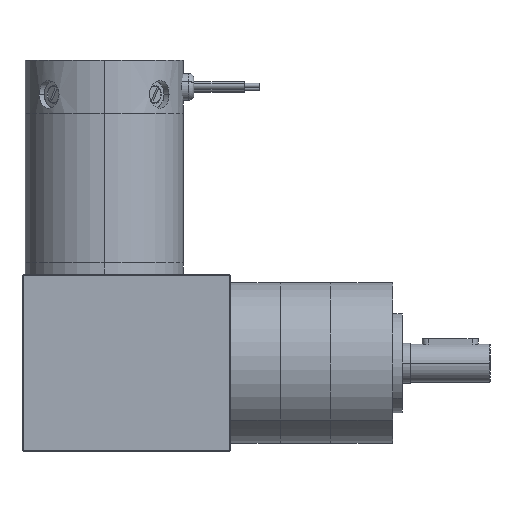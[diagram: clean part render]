
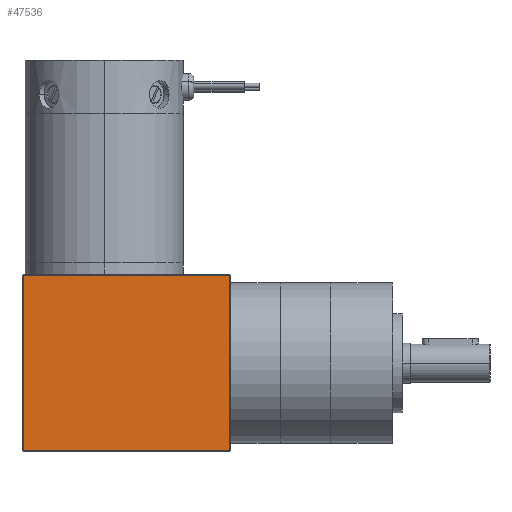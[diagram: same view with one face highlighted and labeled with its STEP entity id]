
A CAD part, top view. The second image highlights one B-rep face of the part: STEP entity #47536.
In plain terms, the highlighted planar face has unit normal (0, 0, 1).
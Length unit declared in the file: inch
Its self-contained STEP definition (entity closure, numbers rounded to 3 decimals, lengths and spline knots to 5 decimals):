
#364 = EDGE_CURVE ( 'NONE', #49258, #4784, #43712, .T. ) ;
#1305 = CARTESIAN_POINT ( 'NONE',  ( 11.74851, 3.5, 3.25 ) ) ;
#1315 = CARTESIAN_POINT ( 'NONE',  ( 7.66351, 3.48, 3.25 ) ) ;
#2335 = DIRECTION ( 'NONE',  ( 1., 0., 0. ) ) ;
#2449 = ORIENTED_EDGE ( 'NONE', *, *, #364, .T. ) ;
#4784 = VERTEX_POINT ( 'NONE', #1315 ) ;
#7285 = CARTESIAN_POINT ( 'NONE',  ( 7.66351, 0.02, 3.25 ) ) ;
#7419 = FACE_OUTER_BOUND ( 'NONE', #36818, .T. ) ;
#8696 = LINE ( 'NONE', #9036, #25394 ) ;
#9036 = CARTESIAN_POINT ( 'NONE',  ( 7.66351, 0., 3.25 ) ) ;
#10936 = CARTESIAN_POINT ( 'NONE',  ( 11.74851, 3.48, 3.25 ) ) ;
#11914 = VECTOR ( 'NONE', #51203, 39.37008 ) ;
#12594 = PLANE ( 'NONE',  #13926 ) ;
#13348 = DIRECTION ( 'NONE',  ( 0., -1., 0. ) ) ;
#13926 = AXIS2_PLACEMENT_3D ( 'NONE', #42131, #49501, #50221 ) ;
#14559 = VERTEX_POINT ( 'NONE', #7285 ) ;
#15094 = EDGE_CURVE ( 'NONE', #4784, #14559, #8696, .T. ) ;
#15472 = VERTEX_POINT ( 'NONE', #19236 ) ;
#19236 = CARTESIAN_POINT ( 'NONE',  ( 11.74851, 0.02, 3.25 ) ) ;
#20263 = LINE ( 'NONE', #1305, #11914 ) ;
#22165 = LINE ( 'NONE', #47769, #25302 ) ;
#24954 = VECTOR ( 'NONE', #31608, 39.37008 ) ;
#25302 = VECTOR ( 'NONE', #2335, 39.37008 ) ;
#25394 = VECTOR ( 'NONE', #13348, 39.37008 ) ;
#30203 = ORIENTED_EDGE ( 'NONE', *, *, #15094, .T. ) ;
#31608 = DIRECTION ( 'NONE',  ( -1., 0., 0. ) ) ;
#36818 = EDGE_LOOP ( 'NONE', ( #45401, #49900, #2449, #30203 ) ) ;
#40943 = EDGE_CURVE ( 'NONE', #15472, #49258, #20263, .T. ) ;
#42131 = CARTESIAN_POINT ( 'NONE',  ( 9.70601, 1.75, 3.25 ) ) ;
#43094 = EDGE_CURVE ( 'NONE', #14559, #15472, #22165, .T. ) ;
#43712 = LINE ( 'NONE', #48371, #24954 ) ;
#45401 = ORIENTED_EDGE ( 'NONE', *, *, #43094, .T. ) ;
#47536 = ADVANCED_FACE ( 'NONE', ( #7419 ), #12594, .T. ) ;
#47769 = CARTESIAN_POINT ( 'NONE',  ( 11.76851, 0.02, 3.25 ) ) ;
#48371 = CARTESIAN_POINT ( 'NONE',  ( 7.64351, 3.48, 3.25 ) ) ;
#49258 = VERTEX_POINT ( 'NONE', #10936 ) ;
#49501 = DIRECTION ( 'NONE',  ( 0., 0., 1. ) ) ;
#49900 = ORIENTED_EDGE ( 'NONE', *, *, #40943, .T. ) ;
#50221 = DIRECTION ( 'NONE',  ( 1., 0., 0. ) ) ;
#51203 = DIRECTION ( 'NONE',  ( 0., 1., 0. ) ) ;
